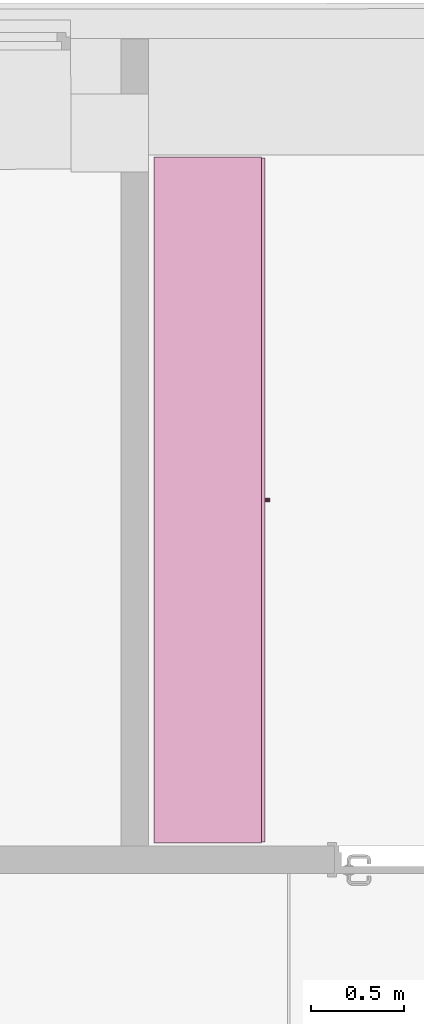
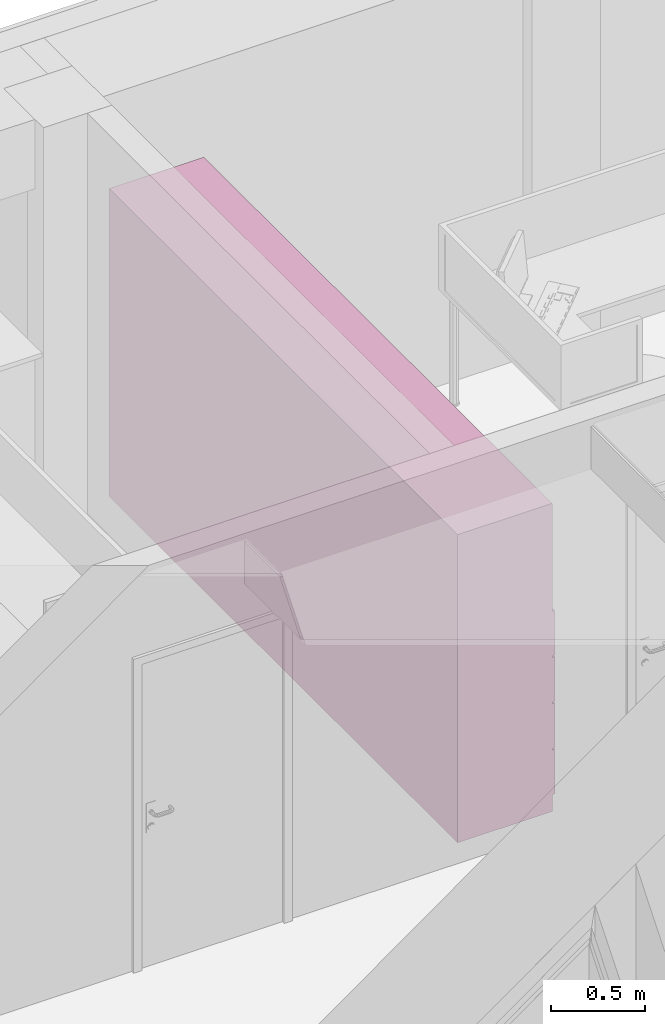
# One storey, part 111 of 127: 1 furnishing.
"""IFC2X3 building model written with IfcOpenShell, lengths in millimetres."""

from ifc_helpers import new_model, entity, si_unit, converted_unit, derived_unit, money_unit, direction, frame, origin_with_axes, place, context, subcontext, project, spatial, faceted_brep, type_object, element, save


model = new_model("IFC2X3")

# Units and contexts
model_context = context("Model", 3, precision=1e-05, world=origin_with_axes(), true_north=direction((0.0, 1.0)))
body_context = subcontext(model_context, "Body", "Model", "MODEL_VIEW")
ifc_project = project(units=[si_unit("LENGTHUNIT", "METRE", prefix="MILLI"), si_unit("AREAUNIT", "SQUARE_METRE"), si_unit("VOLUMEUNIT", "CUBIC_METRE"), converted_unit("PLANEANGLEUNIT", "DEGREE", entity("IfcPlaneAngleMeasure", 0.0174532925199), si_unit("PLANEANGLEUNIT", "RADIAN"), dimensions=[0, 0, 0, 0, 0, 0, 0]), si_unit("SOLIDANGLEUNIT", "STERADIAN"), money_unit("EUR"), converted_unit("TIMEUNIT", "Year", entity("IfcTimeMeasure", 31556926.0), si_unit("TIMEUNIT", "SECOND"), dimensions=[0, 0, 1, 0, 0, 0, 0]), si_unit("MASSUNIT", "GRAM", prefix="KILO"), si_unit("THERMODYNAMICTEMPERATUREUNIT", "DEGREE_CELSIUS"), si_unit("LUMINOUSINTENSITYUNIT", "LUMEN"), si_unit("ENERGYUNIT", "JOULE", prefix="MEGA"), derived_unit("THERMALCONDUCTANCEUNIT", [(si_unit("POWERUNIT", "WATT"), 1), (si_unit("LENGTHUNIT", "METRE"), -1), (si_unit("THERMODYNAMICTEMPERATUREUNIT", "KELVIN"), -1)]), derived_unit("SPECIFICHEATCAPACITYUNIT", [(si_unit("ENERGYUNIT", "JOULE"), 1), (si_unit("MASSUNIT", "GRAM", prefix="KILO"), -1), (si_unit("THERMODYNAMICTEMPERATUREUNIT", "KELVIN"), -1)]), derived_unit("MASSDENSITYUNIT", [(si_unit("MASSUNIT", "GRAM", prefix="KILO"), 1), (si_unit("VOLUMEUNIT", "CUBIC_METRE"), -1)])], contexts=[model_context])

# Site, building, storey
site_placement = place(None, origin_with_axes())
site = spatial("IfcSite", under=ifc_project, at=site_placement, Name="Site", CompositionType="ELEMENT")
building_placement = place(site_placement, origin_with_axes())
building = spatial("IfcBuilding", under=site, at=building_placement, Name="Building", CompositionType="ELEMENT")
storey_placement = place(building_placement, origin_with_axes())
storey = spatial("IfcBuildingStorey", under=building, at=storey_placement, Name="1 KORRUS", CompositionType="ELEMENT", Elevation=0.0)

# Furnishing
furnishing_element_type = type_object("IfcFurnishingElementType", Name="Model Element 36")
furnishing_placement = place(storey_placement, frame((28790.3401458, 67466.3690561, 0.0), z_axis=(0.0, 0.0, 1.0), x_axis=(0.0, 1.0, 0.0)))
element("IfcFurnishingElement", 1, at=furnishing_placement, inside=storey, type_object=furnishing_element_type, Name="FU - 003", context=body_context, shape_type="Brep", body=[
    faceted_brep([(3705.68671691, 19.0, 0.0), (0.0, 19.0, 0.0), (0.0, 600.000000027, 0.0), (3705.68671691, 600.000000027, 0.0), (3705.68671691, 19.0, 100.0), (0.0, 19.0, 100.0), (0.0, 600.000000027, 100.0), (3705.68671691, 600.000000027, 100.0)], [[[0, 1, 2, 3]], [[1, 0, 4, 5]], [[2, 1, 5, 6]], [[3, 2, 6, 7]], [[0, 3, 7, 4]], [[5, 4, 7, 6]]]),
    faceted_brep([(19.0, 600.000000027, 119.0), (19.0, 581.000000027, 119.0), (19.0, 581.000000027, 1981.0), (19.0, 600.000000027, 1981.0), (3686.68671691, 600.000000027, 119.0), (3686.68671691, 581.000000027, 119.0), (3686.68671691, 581.000000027, 1981.0), (3686.68671691, 600.000000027, 1981.0)], [[[0, 1, 2, 3]], [[0, 4, 5, 1]], [[1, 5, 6, 2]], [[3, 2, 6, 7]], [[4, 0, 3, 7]], [[5, 4, 7, 6]]]),
    faceted_brep([(3705.68671691, 19.0, 100.0), (3686.68671691, 19.0, 100.0), (3686.68671691, 600.000000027, 100.0), (3705.68671691, 600.000000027, 100.0), (3705.68671691, 19.0, 2000.0), (3686.68671691, 19.0, 2000.0), (3686.68671691, 600.000000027, 2000.0), (3705.68671691, 600.000000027, 2000.0)], [[[0, 1, 2, 3]], [[1, 0, 4, 5]], [[2, 1, 5, 6]], [[3, 2, 6, 7]], [[0, 3, 7, 4]], [[5, 4, 7, 6]]]),
    faceted_brep([(19.0, 19.0, 100.0), (0.0, 19.0, 100.0), (0.0, 600.000000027, 100.0), (19.0, 600.000000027, 100.0), (19.0, 19.0, 2000.0), (0.0, 19.0, 2000.0), (0.0, 600.000000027, 2000.0), (19.0, 600.000000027, 2000.0)], [[[0, 1, 2, 3]], [[1, 0, 4, 5]], [[2, 1, 5, 6]], [[3, 2, 6, 7]], [[0, 3, 7, 4]], [[5, 4, 7, 6]]]),
    faceted_brep([(3686.68671691, 19.0, 100.0), (19.0, 19.0, 100.0), (19.0, 600.000000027, 100.0), (3686.68671691, 600.000000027, 100.0), (3686.68671691, 19.0, 119.0), (19.0, 19.0, 119.0), (19.0, 600.000000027, 119.0), (3686.68671691, 600.000000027, 119.0)], [[[0, 1, 2, 3]], [[1, 0, 4, 5]], [[2, 1, 5, 6]], [[3, 2, 6, 7]], [[0, 3, 7, 4]], [[5, 4, 7, 6]]]),
    faceted_brep([(3686.68671691, 19.0, 1981.0), (19.0, 19.0, 1981.0), (19.0, 600.000000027, 1981.0), (3686.68671691, 600.000000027, 1981.0), (3686.68671691, 19.0, 2000.0), (19.0, 19.0, 2000.0), (19.0, 600.000000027, 2000.0), (3686.68671691, 600.000000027, 2000.0)], [[[0, 1, 2, 3]], [[1, 0, 4, 5]], [[2, 1, 5, 6]], [[3, 2, 6, 7]], [[0, 3, 7, 4]], [[5, 4, 7, 6]]]),
    faceted_brep([(5.0, 19.0, 105.0), (3700.68671691, 19.0, 105.0), (3700.68671691, 0.0, 105.0), (5.0, 0.0, 105.0), (5.0, 19.0, 395.0), (3700.68671691, 19.0, 395.0), (3700.68671691, 0.0, 395.0), (5.0, 0.0, 395.0)], [[[0, 1, 2, 3]], [[0, 4, 5, 1]], [[1, 5, 6, 2]], [[3, 2, 6, 7]], [[4, 0, 3, 7]], [[5, 4, 7, 6]]]),
    faceted_brep([(1863.2356633, 0.0, 244.0), (1858.84335846, 0.0, 239.607695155), (1852.84335846, 0.0, 238.0), (1846.84335846, 0.0, 239.607695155), (1842.45105361, 0.0, 244.0), (1840.84335846, 0.0, 250.0), (1842.45105361, 0.0, 256.0), (1846.84335846, 0.0, 260.392304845), (1852.84335846, 0.0, 262.0), (1858.84335846, 0.0, 260.392304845), (1863.2356633, 0.0, 256.0), (1864.84335846, 0.0, 250.0), (1863.2356633, -25.0, 244.0), (1858.84335846, -25.0, 239.607695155), (1852.84335846, -25.0, 238.0), (1846.84335846, -25.0, 239.607695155), (1842.45105361, -25.0, 244.0), (1840.84335846, -25.0, 250.0), (1842.45105361, -25.0, 256.0), (1846.84335846, -25.0, 260.392304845), (1852.84335846, -25.0, 262.0), (1858.84335846, -25.0, 260.392304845), (1863.2356633, -25.0, 256.0), (1864.84335846, -25.0, 250.0)], [[[0, 1, 2, 3, 4, 5, 6, 7, 8, 9, 10, 11]], [[1, 0, 12, 13]], [[2, 1, 13, 14]], [[3, 2, 14, 15]], [[4, 3, 15, 16]], [[5, 4, 16, 17]], [[6, 5, 17, 18]], [[7, 6, 18, 19]], [[8, 7, 19, 20]], [[9, 8, 20, 21]], [[10, 9, 21, 22]], [[11, 10, 22, 23]], [[0, 11, 23, 12]], [[12, 23, 22, 21, 20, 19, 18, 17, 16, 15, 14, 13]]]),
    faceted_brep([(5.0, 19.0, 405.0), (3700.68671691, 19.0, 405.0), (3700.68671691, 0.0, 405.0), (5.0, 0.0, 405.0), (5.0, 19.0, 695.0), (3700.68671691, 19.0, 695.0), (3700.68671691, 0.0, 695.0), (5.0, 0.0, 695.0)], [[[0, 1, 2, 3]], [[0, 4, 5, 1]], [[1, 5, 6, 2]], [[3, 2, 6, 7]], [[4, 0, 3, 7]], [[5, 4, 7, 6]]]),
    faceted_brep([(1863.2356633, 0.0, 544.0), (1858.84335846, 0.0, 539.607695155), (1852.84335846, 0.0, 538.0), (1846.84335846, 0.0, 539.607695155), (1842.45105361, 0.0, 544.0), (1840.84335846, 0.0, 550.0), (1842.45105361, 0.0, 556.0), (1846.84335846, 0.0, 560.392304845), (1852.84335846, 0.0, 562.0), (1858.84335846, 0.0, 560.392304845), (1863.2356633, 0.0, 556.0), (1864.84335846, 0.0, 550.0), (1863.2356633, -25.0, 544.0), (1858.84335846, -25.0, 539.607695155), (1852.84335846, -25.0, 538.0), (1846.84335846, -25.0, 539.607695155), (1842.45105361, -25.0, 544.0), (1840.84335846, -25.0, 550.0), (1842.45105361, -25.0, 556.0), (1846.84335846, -25.0, 560.392304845), (1852.84335846, -25.0, 562.0), (1858.84335846, -25.0, 560.392304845), (1863.2356633, -25.0, 556.0), (1864.84335846, -25.0, 550.0)], [[[0, 1, 2, 3, 4, 5, 6, 7, 8, 9, 10, 11]], [[1, 0, 12, 13]], [[2, 1, 13, 14]], [[3, 2, 14, 15]], [[4, 3, 15, 16]], [[5, 4, 16, 17]], [[6, 5, 17, 18]], [[7, 6, 18, 19]], [[8, 7, 19, 20]], [[9, 8, 20, 21]], [[10, 9, 21, 22]], [[11, 10, 22, 23]], [[0, 11, 23, 12]], [[12, 23, 22, 21, 20, 19, 18, 17, 16, 15, 14, 13]]]),
    faceted_brep([(5.0, 19.0, 705.0), (3700.68671691, 19.0, 705.0), (3700.68671691, 0.0, 705.0), (5.0, 0.0, 705.0), (5.0, 19.0, 995.0), (3700.68671691, 19.0, 995.0), (3700.68671691, 0.0, 995.0), (5.0, 0.0, 995.0)], [[[0, 1, 2, 3]], [[0, 4, 5, 1]], [[1, 5, 6, 2]], [[3, 2, 6, 7]], [[4, 0, 3, 7]], [[5, 4, 7, 6]]]),
    faceted_brep([(1863.2356633, 0.0, 844.0), (1858.84335846, 0.0, 839.607695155), (1852.84335846, 0.0, 838.0), (1846.84335846, 0.0, 839.607695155), (1842.45105361, 0.0, 844.0), (1840.84335846, 0.0, 850.0), (1842.45105361, 0.0, 856.0), (1846.84335846, 0.0, 860.392304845), (1852.84335846, 0.0, 862.0), (1858.84335846, 0.0, 860.392304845), (1863.2356633, 0.0, 856.0), (1864.84335846, 0.0, 850.0), (1863.2356633, -25.0, 844.0), (1858.84335846, -25.0, 839.607695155), (1852.84335846, -25.0, 838.0), (1846.84335846, -25.0, 839.607695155), (1842.45105361, -25.0, 844.0), (1840.84335846, -25.0, 850.0), (1842.45105361, -25.0, 856.0), (1846.84335846, -25.0, 860.392304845), (1852.84335846, -25.0, 862.0), (1858.84335846, -25.0, 860.392304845), (1863.2356633, -25.0, 856.0), (1864.84335846, -25.0, 850.0)], [[[0, 1, 2, 3, 4, 5, 6, 7, 8, 9, 10, 11]], [[1, 0, 12, 13]], [[2, 1, 13, 14]], [[3, 2, 14, 15]], [[4, 3, 15, 16]], [[5, 4, 16, 17]], [[6, 5, 17, 18]], [[7, 6, 18, 19]], [[8, 7, 19, 20]], [[9, 8, 20, 21]], [[10, 9, 21, 22]], [[11, 10, 22, 23]], [[0, 11, 23, 12]], [[12, 23, 22, 21, 20, 19, 18, 17, 16, 15, 14, 13]]]),
    faceted_brep([(5.0, 19.0, 1005.0), (3700.68671691, 19.0, 1005.0), (3700.68671691, 0.0, 1005.0), (5.0, 0.0, 1005.0), (5.0, 19.0, 1295.0), (3700.68671691, 19.0, 1295.0), (3700.68671691, 0.0, 1295.0), (5.0, 0.0, 1295.0)], [[[0, 1, 2, 3]], [[0, 4, 5, 1]], [[1, 5, 6, 2]], [[3, 2, 6, 7]], [[4, 0, 3, 7]], [[5, 4, 7, 6]]]),
    faceted_brep([(1863.2356633, 0.0, 1144.0), (1858.84335846, 0.0, 1139.60769515), (1852.84335846, 0.0, 1138.0), (1846.84335846, 0.0, 1139.60769515), (1842.45105361, 0.0, 1144.0), (1840.84335846, 0.0, 1150.0), (1842.45105361, 0.0, 1156.0), (1846.84335846, 0.0, 1160.39230485), (1852.84335846, 0.0, 1162.0), (1858.84335846, 0.0, 1160.39230485), (1863.2356633, 0.0, 1156.0), (1864.84335846, 0.0, 1150.0), (1863.2356633, -25.0, 1144.0), (1858.84335846, -25.0, 1139.60769515), (1852.84335846, -25.0, 1138.0), (1846.84335846, -25.0, 1139.60769515), (1842.45105361, -25.0, 1144.0), (1840.84335846, -25.0, 1150.0), (1842.45105361, -25.0, 1156.0), (1846.84335846, -25.0, 1160.39230485), (1852.84335846, -25.0, 1162.0), (1858.84335846, -25.0, 1160.39230485), (1863.2356633, -25.0, 1156.0), (1864.84335846, -25.0, 1150.0)], [[[0, 1, 2, 3, 4, 5, 6, 7, 8, 9, 10, 11]], [[1, 0, 12, 13]], [[2, 1, 13, 14]], [[3, 2, 14, 15]], [[4, 3, 15, 16]], [[5, 4, 16, 17]], [[6, 5, 17, 18]], [[7, 6, 18, 19]], [[8, 7, 19, 20]], [[9, 8, 20, 21]], [[10, 9, 21, 22]], [[11, 10, 22, 23]], [[0, 11, 23, 12]], [[12, 23, 22, 21, 20, 19, 18, 17, 16, 15, 14, 13]]]),
    faceted_brep([(19.0, 19.0, 390.5), (3686.68671691, 19.0, 390.5), (3686.68671691, 19.0, 409.5), (19.0, 19.0, 409.5), (19.0, 581.000000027, 390.5), (3686.68671691, 581.000000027, 390.5), (3686.68671691, 581.000000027, 409.5), (19.0, 581.000000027, 409.5)], [[[0, 1, 2, 3]], [[0, 4, 5, 1]], [[1, 5, 6, 2]], [[3, 2, 6, 7]], [[4, 0, 3, 7]], [[5, 4, 7, 6]]]),
    faceted_brep([(19.0, 19.0, 690.5), (3686.68671691, 19.0, 690.5), (3686.68671691, 19.0, 709.5), (19.0, 19.0, 709.5), (19.0, 581.000000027, 690.5), (3686.68671691, 581.000000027, 690.5), (3686.68671691, 581.000000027, 709.5), (19.0, 581.000000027, 709.5)], [[[0, 1, 2, 3]], [[0, 4, 5, 1]], [[1, 5, 6, 2]], [[3, 2, 6, 7]], [[4, 0, 3, 7]], [[5, 4, 7, 6]]]),
    faceted_brep([(19.0, 19.0, 990.5), (3686.68671691, 19.0, 990.5), (3686.68671691, 19.0, 1009.5), (19.0, 19.0, 1009.5), (19.0, 581.000000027, 990.5), (3686.68671691, 581.000000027, 990.5), (3686.68671691, 581.000000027, 1009.5), (19.0, 581.000000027, 1009.5)], [[[0, 1, 2, 3]], [[0, 4, 5, 1]], [[1, 5, 6, 2]], [[3, 2, 6, 7]], [[4, 0, 3, 7]], [[5, 4, 7, 6]]]),
    faceted_brep([(19.0, 19.0, 1290.5), (3686.68671691, 19.0, 1290.5), (3686.68671691, 19.0, 1309.5), (19.0, 19.0, 1309.5), (19.0, 581.000000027, 1290.5), (3686.68671691, 581.000000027, 1290.5), (3686.68671691, 581.000000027, 1309.5), (19.0, 581.000000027, 1309.5)], [[[0, 1, 2, 3]], [[0, 4, 5, 1]], [[1, 5, 6, 2]], [[3, 2, 6, 7]], [[4, 0, 3, 7]], [[5, 4, 7, 6]]]),
    faceted_brep([(3686.68671691, 19.0, 1463.125), (19.0, 19.0, 1463.125), (19.0, 581.000000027, 1463.125), (3686.68671691, 581.000000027, 1463.125), (3686.68671691, 19.0, 1482.125), (19.0, 19.0, 1482.125), (19.0, 581.000000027, 1482.125), (3686.68671691, 581.000000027, 1482.125)], [[[0, 1, 2, 3]], [[1, 0, 4, 5]], [[2, 1, 5, 6]], [[3, 2, 6, 7]], [[0, 3, 7, 4]], [[5, 4, 7, 6]]]),
    faceted_brep([(3686.68671691, 19.0, 1635.75), (19.0, 19.0, 1635.75), (19.0, 581.000000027, 1635.75), (3686.68671691, 581.000000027, 1635.75), (3686.68671691, 19.0, 1654.75), (19.0, 19.0, 1654.75), (19.0, 581.000000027, 1654.75), (3686.68671691, 581.000000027, 1654.75)], [[[0, 1, 2, 3]], [[1, 0, 4, 5]], [[2, 1, 5, 6]], [[3, 2, 6, 7]], [[0, 3, 7, 4]], [[5, 4, 7, 6]]]),
    faceted_brep([(3686.68671691, 19.0, 1808.375), (19.0, 19.0, 1808.375), (19.0, 581.000000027, 1808.375), (3686.68671691, 581.000000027, 1808.375), (3686.68671691, 19.0, 1827.375), (19.0, 19.0, 1827.375), (19.0, 581.000000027, 1827.375), (3686.68671691, 581.000000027, 1827.375)], [[[0, 1, 2, 3]], [[1, 0, 4, 5]], [[2, 1, 5, 6]], [[3, 2, 6, 7]], [[0, 3, 7, 4]], [[5, 4, 7, 6]]]),
])

save(model, "model.ifc")
